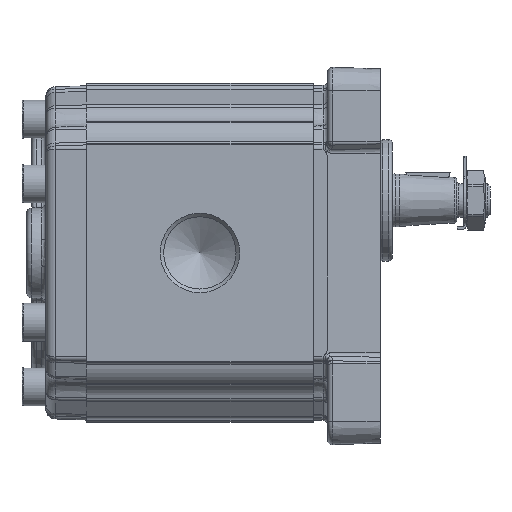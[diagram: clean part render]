
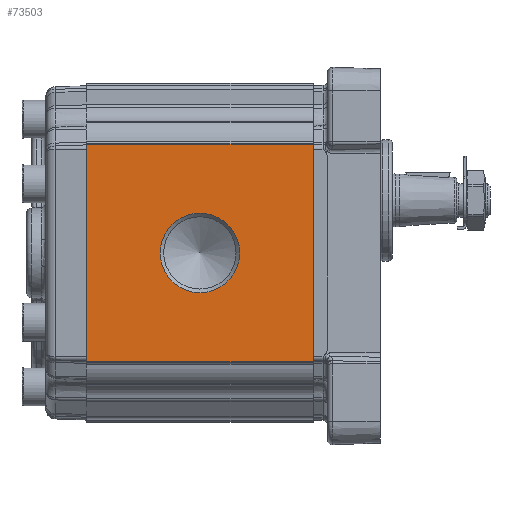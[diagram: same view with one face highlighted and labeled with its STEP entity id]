
A CAD part, left-side view. The second image highlights one B-rep face of the part: STEP entity #73503.
In plain terms, the highlighted planar face has unit normal (-1, 0, 0) as drawn and (1, 0, 0) by its records, which use the part's own axes.
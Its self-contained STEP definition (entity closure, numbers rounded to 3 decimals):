
#2245=LINE('',#112343,#5955);
#2256=LINE('',#112427,#5966);
#2302=LINE('',#112577,#6012);
#2303=LINE('',#112578,#6013);
#5955=VECTOR('',#88502,1000.);
#5966=VECTOR('',#88577,1000.);
#6012=VECTOR('',#88739,1000.);
#6013=VECTOR('',#88740,1000.);
#8292=PLANE('',#77923);
#19825=ORIENTED_EDGE('',*,*,#32875,.T.);
#19826=ORIENTED_EDGE('',*,*,#32754,.F.);
#19827=ORIENTED_EDGE('',*,*,#32876,.T.);
#19828=ORIENTED_EDGE('',*,*,#32796,.F.);
#19829=ORIENTED_EDGE('',*,*,#32877,.T.);
#32754=EDGE_CURVE('',#39907,#39908,#2245,.T.);
#32796=EDGE_CURVE('',#39949,#39950,#2256,.T.);
#32875=EDGE_CURVE('',#39994,#39994,#44357,.F.);
#32876=EDGE_CURVE('',#39907,#39950,#2302,.F.);
#32877=EDGE_CURVE('',#39949,#39908,#2303,.F.);
#39907=VERTEX_POINT('',#112342);
#39908=VERTEX_POINT('',#112344);
#39949=VERTEX_POINT('',#112428);
#39950=VERTEX_POINT('',#112429);
#39994=VERTEX_POINT('',#112576);
#44357=CIRCLE('',#77924,16.646);
#47365=EDGE_LOOP('',(#19825));
#47366=EDGE_LOOP('',(#19826,#19827,#19828,#19829));
#50334=FACE_BOUND('',#47365,.T.);
#50335=FACE_BOUND('',#47366,.T.);
#73503=ADVANCED_FACE('',(#50334,#50335),#8292,.T.);
#77923=AXIS2_PLACEMENT_3D('',#112574,#88735,#88736);
#77924=AXIS2_PLACEMENT_3D('',#112575,#88737,#88738);
#88502=DIRECTION('',(0.,0.,-1.));
#88577=DIRECTION('',(0.,0.,1.));
#88735=DIRECTION('',(1.,0.,0.));
#88736=DIRECTION('',(0.,0.,1.));
#88737=DIRECTION('',(1.,0.,0.));
#88738=DIRECTION('',(0.,0.,1.));
#88739=DIRECTION('',(0.,1.,0.));
#88740=DIRECTION('',(0.,-1.,0.));
#112342=CARTESIAN_POINT('',(57.5,95.,45.5));
#112343=CARTESIAN_POINT('',(57.5,95.,91.388));
#112344=CARTESIAN_POINT('',(57.5,95.,-45.5));
#112427=CARTESIAN_POINT('',(57.5,0.,-44.978));
#112428=CARTESIAN_POINT('',(57.5,0.,-45.5));
#112429=CARTESIAN_POINT('',(57.5,0.,45.5));
#112574=CARTESIAN_POINT('',(57.5,-136.868,91.388));
#112575=CARTESIAN_POINT('',(57.5,47.5,0.));
#112576=CARTESIAN_POINT('',(57.5,47.5,16.646));
#112577=CARTESIAN_POINT('',(57.5,-136.868,45.5));
#112578=CARTESIAN_POINT('',(57.5,-136.868,-45.5));
